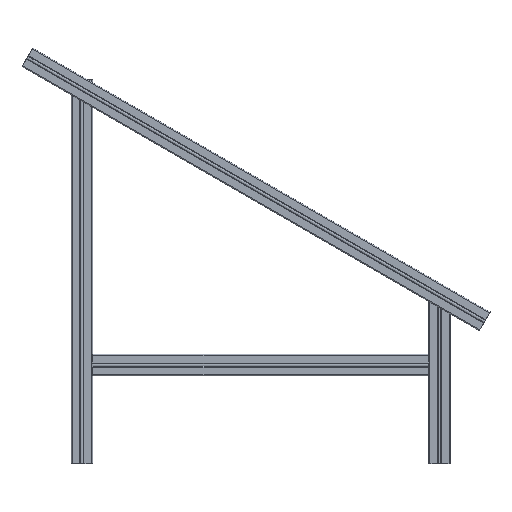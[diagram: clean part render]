
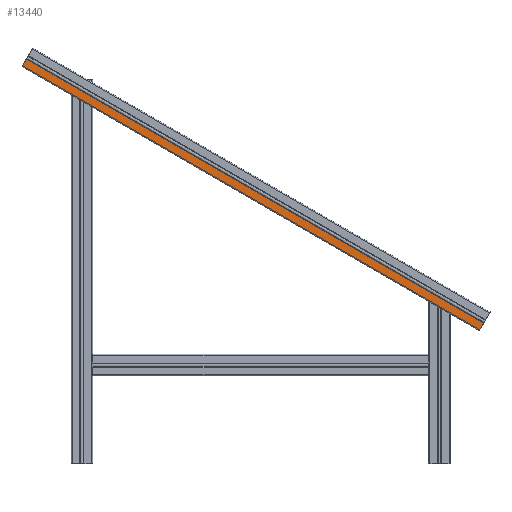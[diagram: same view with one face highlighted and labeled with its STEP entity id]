
A CAD part, top view. The second image highlights one B-rep face of the part: STEP entity #13440.
In plain terms, the highlighted planar face has unit normal (0, 0, 1).
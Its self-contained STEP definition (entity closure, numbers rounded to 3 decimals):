
#72 = CARTESIAN_POINT ( 'NONE',  ( 84.1, 279.679, 67.5 ) ) ;
#459 = CARTESIAN_POINT ( 'NONE',  ( -860.603, 843.406, 67.5 ) ) ;
#821 = VERTEX_POINT ( 'NONE', #14819 ) ;
#1812 = CARTESIAN_POINT ( 'NONE',  ( 92.025, 293.406, 67.5 ) ) ;
#3541 = EDGE_LOOP ( 'NONE', ( #5300, #17366, #13038, #8968 ) ) ;
#3671 = VERTEX_POINT ( 'NONE', #7039 ) ;
#3732 = VERTEX_POINT ( 'NONE', #459 ) ;
#4215 = DIRECTION ( 'NONE',  ( 0., 0., -1. ) ) ;
#4221 = VECTOR ( 'NONE', #11827, 1000. ) ;
#4266 = EDGE_CURVE ( 'NONE', #821, #3671, #17260, .T. ) ;
#4403 = DIRECTION ( 'NONE',  ( -0.5, -0.866, 0. ) ) ;
#4660 = EDGE_CURVE ( 'NONE', #3732, #11632, #15879, .T. ) ;
#5300 = ORIENTED_EDGE ( 'NONE', *, *, #4660, .T. ) ;
#5457 = VECTOR ( 'NONE', #14444, 1000. ) ;
#5556 = DIRECTION ( 'NONE',  ( 0., 1., 0. ) ) ;
#5843 = CARTESIAN_POINT ( 'NONE',  ( 84.1, 279.679, 67.5 ) ) ;
#7039 = CARTESIAN_POINT ( 'NONE',  ( 84.1, 279.679, 67.5 ) ) ;
#7467 = EDGE_CURVE ( 'NONE', #3671, #11632, #10159, .T. ) ;
#8635 = DIRECTION ( 'NONE',  ( -0.866, 0.5, 0. ) ) ;
#8648 = CARTESIAN_POINT ( 'NONE',  ( -868.528, 829.679, 67.5 ) ) ;
#8968 = ORIENTED_EDGE ( 'NONE', *, *, #17678, .T. ) ;
#9937 = PLANE ( 'NONE',  #18387 ) ;
#10159 = LINE ( 'NONE', #72, #12808 ) ;
#11538 = CARTESIAN_POINT ( 'NONE',  ( -868.528, 829.679, 67.5 ) ) ;
#11632 = VERTEX_POINT ( 'NONE', #11538 ) ;
#11827 = DIRECTION ( 'NONE',  ( -0.866, 0.5, 0. ) ) ;
#12808 = VECTOR ( 'NONE', #8635, 1000. ) ;
#12979 = CARTESIAN_POINT ( 'NONE',  ( 84.1, 279.679, 67.5 ) ) ;
#13038 = ORIENTED_EDGE ( 'NONE', *, *, #4266, .F. ) ;
#13440 = ADVANCED_FACE ( 'NONE', ( #14034 ), #9937, .F. ) ;
#14034 = FACE_OUTER_BOUND ( 'NONE', #3541, .T. ) ;
#14444 = DIRECTION ( 'NONE',  ( -0.5, -0.866, 0. ) ) ;
#14819 = CARTESIAN_POINT ( 'NONE',  ( 92.025, 293.406, 67.5 ) ) ;
#15508 = VECTOR ( 'NONE', #4403, 1000. ) ;
#15879 = LINE ( 'NONE', #8648, #5457 ) ;
#15908 = LINE ( 'NONE', #1812, #4221 ) ;
#17260 = LINE ( 'NONE', #5843, #15508 ) ;
#17366 = ORIENTED_EDGE ( 'NONE', *, *, #7467, .F. ) ;
#17678 = EDGE_CURVE ( 'NONE', #821, #3732, #15908, .T. ) ;
#18387 = AXIS2_PLACEMENT_3D ( 'NONE', #12979, #4215, #5556 ) ;
